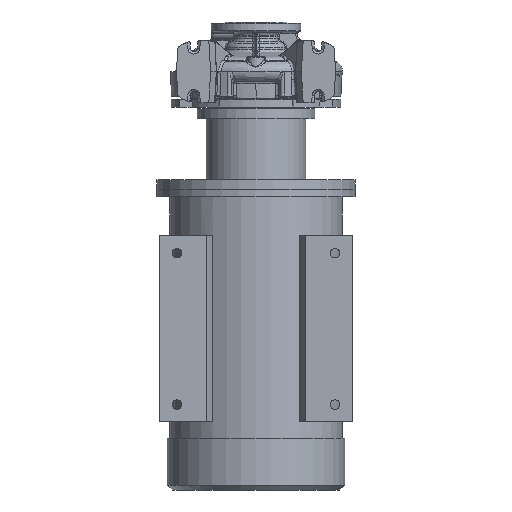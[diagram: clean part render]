
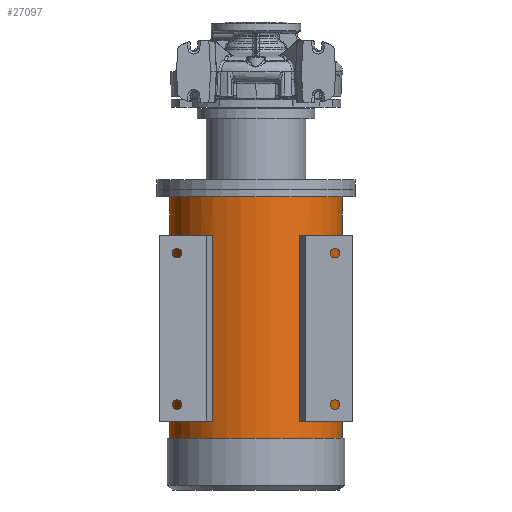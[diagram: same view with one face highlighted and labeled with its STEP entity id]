
A CAD part, front view. The second image highlights one B-rep face of the part: STEP entity #27097.
In plain terms, the highlighted cylindrical face has radius 173.5 mm (diameter 347 mm), a partial arc.
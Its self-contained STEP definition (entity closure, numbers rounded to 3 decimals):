
#519 = AXIS2_PLACEMENT_3D ( 'NONE', #17408, #32020, #52681 ) ;
#559 = DIRECTION ( 'NONE',  ( -1., 0., 0. ) ) ;
#4055 = EDGE_LOOP ( 'NONE', ( #55492, #20335, #15818, #37811 ) ) ;
#7569 = DIRECTION ( 'NONE',  ( -1., 0., 0. ) ) ;
#8598 = DIRECTION ( 'NONE',  ( 0., 0., -1. ) ) ;
#10108 = VERTEX_POINT ( 'NONE', #80695 ) ;
#10285 = VECTOR ( 'NONE', #72907, 1000. ) ;
#10382 = CARTESIAN_POINT ( 'NONE',  ( 0., 0., -330.3 ) ) ;
#10941 = CIRCLE ( 'NONE', #36354, 173.5 ) ;
#11300 = ORIENTED_EDGE ( 'NONE', *, *, #31950, .F. ) ;
#12768 = CARTESIAN_POINT ( 'NONE',  ( 173.5, 0., -252.3 ) ) ;
#13178 = CARTESIAN_POINT ( 'NONE',  ( 87.271, -149.953, -842.3 ) ) ;
#13266 = FACE_OUTER_BOUND ( 'NONE', #4055, .T. ) ;
#13355 = LINE ( 'NONE', #58129, #62340 ) ;
#13590 = DIRECTION ( 'NONE',  ( -1., 0., 0. ) ) ;
#14245 = CARTESIAN_POINT ( 'NONE',  ( 0., 0., -705.3 ) ) ;
#14269 = CARTESIAN_POINT ( 'NONE',  ( 0., 0., -842.3 ) ) ;
#14304 = CARTESIAN_POINT ( 'NONE',  ( -100.73, -141.265, -705.3 ) ) ;
#14666 = AXIS2_PLACEMENT_3D ( 'NONE', #14269, #49279, #7569 ) ;
#15818 = ORIENTED_EDGE ( 'NONE', *, *, #33120, .T. ) ;
#15847 = ORIENTED_EDGE ( 'NONE', *, *, #29254, .T. ) ;
#16557 = VERTEX_POINT ( 'NONE', #62326 ) ;
#16691 = CIRCLE ( 'NONE', #42515, 173.5 ) ;
#17408 = CARTESIAN_POINT ( 'NONE',  ( 0., 0., -705.3 ) ) ;
#18167 = VERTEX_POINT ( 'NONE', #14304 ) ;
#18424 = CARTESIAN_POINT ( 'NONE',  ( -87.271, -149.953, -705.3 ) ) ;
#18824 = VECTOR ( 'NONE', #34221, 1000. ) ;
#19071 = LINE ( 'NONE', #34988, #37559 ) ;
#20335 = ORIENTED_EDGE ( 'NONE', *, *, #35526, .T. ) ;
#20392 = CARTESIAN_POINT ( 'NONE',  ( 87.271, -149.953, -705.3 ) ) ;
#20887 = FACE_BOUND ( 'NONE', #84568, .T. ) ;
#21488 = ORIENTED_EDGE ( 'NONE', *, *, #51436, .F. ) ;
#23057 = AXIS2_PLACEMENT_3D ( 'NONE', #14245, #83930, #559 ) ;
#23071 = AXIS2_PLACEMENT_3D ( 'NONE', #37658, #72904, #51337 ) ;
#23584 = CARTESIAN_POINT ( 'NONE',  ( -173.5, 0., -842.3 ) ) ;
#25044 = CARTESIAN_POINT ( 'NONE',  ( 100.73, -141.265, -842.3 ) ) ;
#26898 = EDGE_CURVE ( 'NONE', #62012, #48751, #13355, .T. ) ;
#27049 = CARTESIAN_POINT ( 'NONE',  ( 0., 0., -738.3 ) ) ;
#27097 = ADVANCED_FACE ( 'NONE', ( #13266, #78553, #20887 ), #89371, .T. ) ;
#27450 = EDGE_LOOP ( 'NONE', ( #21488, #88471, #41225, #15847 ) ) ;
#29254 = EDGE_CURVE ( 'NONE', #59803, #54958, #32945, .T. ) ;
#29605 = VECTOR ( 'NONE', #86717, 1000. ) ;
#30973 = CARTESIAN_POINT ( 'NONE',  ( -100.73, -141.265, -842.3 ) ) ;
#31692 = VERTEX_POINT ( 'NONE', #20392 ) ;
#31950 = EDGE_CURVE ( 'NONE', #16557, #10108, #16691, .T. ) ;
#32020 = DIRECTION ( 'NONE',  ( 0., 0., -1. ) ) ;
#32254 = CIRCLE ( 'NONE', #53572, 173.5 ) ;
#32945 = LINE ( 'NONE', #25044, #29605 ) ;
#33120 = EDGE_CURVE ( 'NONE', #44234, #45702, #87799, .T. ) ;
#34221 = DIRECTION ( 'NONE',  ( 0., 0., 1. ) ) ;
#34988 = CARTESIAN_POINT ( 'NONE',  ( -87.271, -149.953, -842.3 ) ) ;
#35526 = EDGE_CURVE ( 'NONE', #62012, #44234, #47417, .T. ) ;
#36354 = AXIS2_PLACEMENT_3D ( 'NONE', #27049, #48634, #13590 ) ;
#36370 = DIRECTION ( 'NONE',  ( 0., 0., -1. ) ) ;
#37559 = VECTOR ( 'NONE', #55324, 1000. ) ;
#37658 = CARTESIAN_POINT ( 'NONE',  ( 0., 0., -252.3 ) ) ;
#37811 = ORIENTED_EDGE ( 'NONE', *, *, #83809, .F. ) ;
#41114 = CARTESIAN_POINT ( 'NONE',  ( 100.73, -141.265, -330.3 ) ) ;
#41225 = ORIENTED_EDGE ( 'NONE', *, *, #57905, .T. ) ;
#42515 = AXIS2_PLACEMENT_3D ( 'NONE', #10382, #66350, #86108 ) ;
#44234 = VERTEX_POINT ( 'NONE', #65689 ) ;
#45702 = VERTEX_POINT ( 'NONE', #70703 ) ;
#47417 = CIRCLE ( 'NONE', #23071, 173.5 ) ;
#48634 = DIRECTION ( 'NONE',  ( 0., 0., -1. ) ) ;
#48751 = VERTEX_POINT ( 'NONE', #70213 ) ;
#49279 = DIRECTION ( 'NONE',  ( 0., 0., -1. ) ) ;
#49492 = CIRCLE ( 'NONE', #23057, 173.5 ) ;
#51337 = DIRECTION ( 'NONE',  ( -1., 0., 0. ) ) ;
#51436 = EDGE_CURVE ( 'NONE', #31692, #54958, #49492, .T. ) ;
#52681 = DIRECTION ( 'NONE',  ( 1., 0., 0. ) ) ;
#53016 = VECTOR ( 'NONE', #36370, 1000. ) ;
#53572 = AXIS2_PLACEMENT_3D ( 'NONE', #61787, #55086, #66110 ) ;
#53621 = LINE ( 'NONE', #13178, #18824 ) ;
#53885 = ORIENTED_EDGE ( 'NONE', *, *, #64984, .T. ) ;
#54958 = VERTEX_POINT ( 'NONE', #66003 ) ;
#55086 = DIRECTION ( 'NONE',  ( 0., 0., 1. ) ) ;
#55324 = DIRECTION ( 'NONE',  ( 0., 0., 1. ) ) ;
#55492 = ORIENTED_EDGE ( 'NONE', *, *, #26898, .F. ) ;
#57905 = EDGE_CURVE ( 'NONE', #61144, #59803, #32254, .T. ) ;
#58129 = CARTESIAN_POINT ( 'NONE',  ( 173.5, 0., -842.3 ) ) ;
#58509 = ORIENTED_EDGE ( 'NONE', *, *, #58833, .F. ) ;
#58833 = EDGE_CURVE ( 'NONE', #88535, #16557, #19071, .T. ) ;
#59112 = ORIENTED_EDGE ( 'NONE', *, *, #68927, .F. ) ;
#59803 = VERTEX_POINT ( 'NONE', #41114 ) ;
#61144 = VERTEX_POINT ( 'NONE', #64503 ) ;
#61787 = CARTESIAN_POINT ( 'NONE',  ( 0., 0., -330.3 ) ) ;
#62012 = VERTEX_POINT ( 'NONE', #12768 ) ;
#62326 = CARTESIAN_POINT ( 'NONE',  ( -87.271, -149.953, -330.3 ) ) ;
#62340 = VECTOR ( 'NONE', #8598, 1000. ) ;
#63569 = LINE ( 'NONE', #30973, #10285 ) ;
#64503 = CARTESIAN_POINT ( 'NONE',  ( 87.271, -149.953, -330.3 ) ) ;
#64984 = EDGE_CURVE ( 'NONE', #88535, #18167, #82541, .T. ) ;
#65689 = CARTESIAN_POINT ( 'NONE',  ( -173.5, 0., -252.3 ) ) ;
#66003 = CARTESIAN_POINT ( 'NONE',  ( 100.73, -141.265, -705.3 ) ) ;
#66110 = DIRECTION ( 'NONE',  ( -1., 0., 0. ) ) ;
#66350 = DIRECTION ( 'NONE',  ( 0., 0., -1. ) ) ;
#68927 = EDGE_CURVE ( 'NONE', #10108, #18167, #63569, .T. ) ;
#70213 = CARTESIAN_POINT ( 'NONE',  ( 173.5, 0., -738.3 ) ) ;
#70703 = CARTESIAN_POINT ( 'NONE',  ( -173.5, 0., -738.3 ) ) ;
#72904 = DIRECTION ( 'NONE',  ( 0., 0., -1. ) ) ;
#72907 = DIRECTION ( 'NONE',  ( 0., 0., -1. ) ) ;
#78553 = FACE_BOUND ( 'NONE', #27450, .T. ) ;
#80695 = CARTESIAN_POINT ( 'NONE',  ( -100.73, -141.265, -330.3 ) ) ;
#82541 = CIRCLE ( 'NONE', #519, 173.5 ) ;
#82697 = EDGE_CURVE ( 'NONE', #31692, #61144, #53621, .T. ) ;
#83809 = EDGE_CURVE ( 'NONE', #48751, #45702, #10941, .T. ) ;
#83930 = DIRECTION ( 'NONE',  ( 0., 0., 1. ) ) ;
#84568 = EDGE_LOOP ( 'NONE', ( #58509, #53885, #59112, #11300 ) ) ;
#86108 = DIRECTION ( 'NONE',  ( 1., 0., 0. ) ) ;
#86717 = DIRECTION ( 'NONE',  ( 0., 0., -1. ) ) ;
#87799 = LINE ( 'NONE', #23584, #53016 ) ;
#88471 = ORIENTED_EDGE ( 'NONE', *, *, #82697, .T. ) ;
#88535 = VERTEX_POINT ( 'NONE', #18424 ) ;
#89371 = CYLINDRICAL_SURFACE ( 'NONE', #14666, 173.5 ) ;
